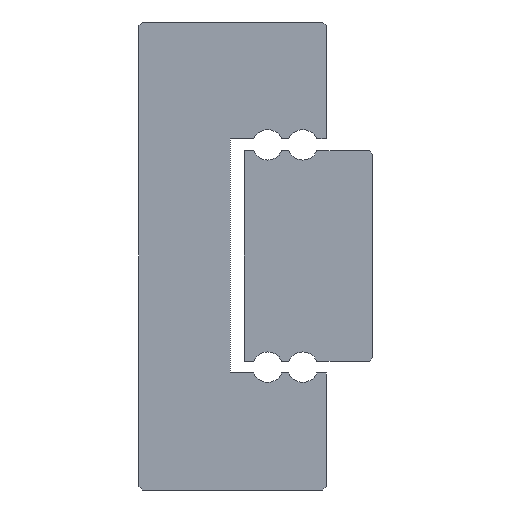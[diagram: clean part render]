
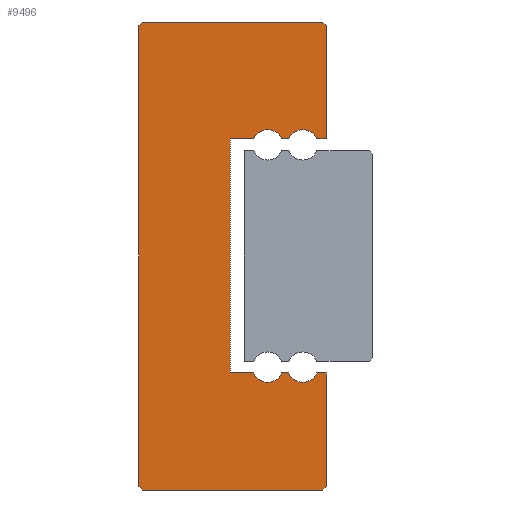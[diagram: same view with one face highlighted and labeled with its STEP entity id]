
A CAD part, left-side view. The second image highlights one B-rep face of the part: STEP entity #9496.
In plain terms, the highlighted planar face has unit normal (-1, 0, 0).
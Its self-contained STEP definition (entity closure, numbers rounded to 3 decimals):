
#79=LINE('',#14530,#895);
#217=LINE('',#15303,#1033);
#220=LINE('',#15309,#1036);
#223=LINE('',#15315,#1039);
#227=LINE('',#15327,#1043);
#231=LINE('',#15339,#1047);
#234=LINE('',#15345,#1050);
#237=LINE('',#15351,#1053);
#241=LINE('',#15363,#1057);
#245=LINE('',#15375,#1061);
#248=LINE('',#15381,#1064);
#251=LINE('',#15387,#1067);
#254=LINE('',#15393,#1070);
#257=LINE('',#15399,#1073);
#260=LINE('',#15425,#1076);
#263=LINE('',#15431,#1079);
#895=VECTOR('',#11343,1000.);
#1033=VECTOR('',#11979,1000.);
#1036=VECTOR('',#11984,1000.);
#1039=VECTOR('',#11989,1000.);
#1043=VECTOR('',#12001,1000.);
#1047=VECTOR('',#12013,1000.);
#1050=VECTOR('',#12018,1000.);
#1053=VECTOR('',#12023,1000.);
#1057=VECTOR('',#12035,1000.);
#1061=VECTOR('',#12047,1000.);
#1064=VECTOR('',#12052,1000.);
#1067=VECTOR('',#12057,1000.);
#1070=VECTOR('',#12062,1000.);
#1073=VECTOR('',#12067,1000.);
#1076=VECTOR('',#12092,1000.);
#1079=VECTOR('',#12097,1000.);
#1708=PLANE('',#10354);
#2494=ORIENTED_EDGE('',*,*,#4865,.F.);
#2495=ORIENTED_EDGE('',*,*,#5315,.F.);
#2496=ORIENTED_EDGE('',*,*,#5312,.F.);
#2497=ORIENTED_EDGE('',*,*,#5299,.F.);
#2498=ORIENTED_EDGE('',*,*,#5296,.F.);
#2499=ORIENTED_EDGE('',*,*,#5293,.F.);
#2500=ORIENTED_EDGE('',*,*,#5290,.F.);
#2501=ORIENTED_EDGE('',*,*,#5287,.F.);
#2502=ORIENTED_EDGE('',*,*,#5284,.T.);
#2503=ORIENTED_EDGE('',*,*,#5281,.F.);
#2504=ORIENTED_EDGE('',*,*,#5278,.T.);
#2505=ORIENTED_EDGE('',*,*,#5275,.F.);
#2506=ORIENTED_EDGE('',*,*,#5272,.F.);
#2507=ORIENTED_EDGE('',*,*,#5269,.F.);
#2508=ORIENTED_EDGE('',*,*,#5266,.T.);
#2509=ORIENTED_EDGE('',*,*,#5263,.F.);
#2510=ORIENTED_EDGE('',*,*,#5260,.T.);
#2511=ORIENTED_EDGE('',*,*,#5257,.F.);
#2512=ORIENTED_EDGE('',*,*,#5254,.F.);
#2513=ORIENTED_EDGE('',*,*,#5251,.F.);
#4865=EDGE_CURVE('',#6311,#6312,#79,.T.);
#5251=EDGE_CURVE('',#6312,#6697,#217,.T.);
#5254=EDGE_CURVE('',#6697,#6699,#220,.T.);
#5257=EDGE_CURVE('',#6699,#6701,#223,.T.);
#5260=EDGE_CURVE('',#6703,#6701,#7526,.T.);
#5263=EDGE_CURVE('',#6703,#6705,#227,.T.);
#5266=EDGE_CURVE('',#6707,#6705,#7528,.T.);
#5269=EDGE_CURVE('',#6707,#6709,#231,.T.);
#5272=EDGE_CURVE('',#6709,#6711,#234,.T.);
#5275=EDGE_CURVE('',#6711,#6713,#237,.T.);
#5278=EDGE_CURVE('',#6715,#6713,#7530,.T.);
#5281=EDGE_CURVE('',#6715,#6717,#241,.T.);
#5284=EDGE_CURVE('',#6719,#6717,#7532,.T.);
#5287=EDGE_CURVE('',#6719,#6721,#245,.T.);
#5290=EDGE_CURVE('',#6721,#6723,#248,.T.);
#5293=EDGE_CURVE('',#6723,#6725,#251,.T.);
#5296=EDGE_CURVE('',#6725,#6727,#254,.T.);
#5299=EDGE_CURVE('',#6727,#6729,#257,.T.);
#5312=EDGE_CURVE('',#6729,#6741,#260,.T.);
#5315=EDGE_CURVE('',#6741,#6311,#263,.T.);
#6311=VERTEX_POINT('',#14531);
#6312=VERTEX_POINT('',#14532);
#6697=VERTEX_POINT('',#15304);
#6699=VERTEX_POINT('',#15310);
#6701=VERTEX_POINT('',#15316);
#6703=VERTEX_POINT('',#15322);
#6705=VERTEX_POINT('',#15328);
#6707=VERTEX_POINT('',#15334);
#6709=VERTEX_POINT('',#15340);
#6711=VERTEX_POINT('',#15346);
#6713=VERTEX_POINT('',#15352);
#6715=VERTEX_POINT('',#15358);
#6717=VERTEX_POINT('',#15364);
#6719=VERTEX_POINT('',#15370);
#6721=VERTEX_POINT('',#15376);
#6723=VERTEX_POINT('',#15382);
#6725=VERTEX_POINT('',#15388);
#6727=VERTEX_POINT('',#15394);
#6729=VERTEX_POINT('',#15400);
#6741=VERTEX_POINT('',#15426);
#7526=CIRCLE('',#10320,0.65);
#7528=CIRCLE('',#10324,0.65);
#7530=CIRCLE('',#10330,0.65);
#7532=CIRCLE('',#10334,0.65);
#7994=EDGE_LOOP('',(#2494,#2495,#2496,#2497,#2498,#2499,#2500,#2501,#2502,
#2503,#2504,#2505,#2506,#2507,#2508,#2509,#2510,#2511,#2512,#2513));
#8611=FACE_BOUND('',#7994,.T.);
#9496=ADVANCED_FACE('',(#8611),#1708,.F.);
#10320=AXIS2_PLACEMENT_3D('',#15321,#11994,#11995);
#10324=AXIS2_PLACEMENT_3D('',#15333,#12006,#12007);
#10330=AXIS2_PLACEMENT_3D('',#15357,#12028,#12029);
#10334=AXIS2_PLACEMENT_3D('',#15369,#12040,#12041);
#10354=AXIS2_PLACEMENT_3D('',#15434,#12101,#12102);
#11343=DIRECTION('',(0.,-1.,0.));
#11979=DIRECTION('',(0.,-0.707,-0.707));
#11984=DIRECTION('',(0.,0.,-1.));
#11989=DIRECTION('',(0.,1.,0.));
#11994=DIRECTION('',(1.,0.,0.));
#11995=DIRECTION('',(0.,0.,-1.));
#12001=DIRECTION('',(0.,1.,0.));
#12006=DIRECTION('',(1.,0.,0.));
#12007=DIRECTION('',(0.,0.,-1.));
#12013=DIRECTION('',(0.,1.,0.));
#12018=DIRECTION('',(0.,0.,-1.));
#12023=DIRECTION('',(0.,-1.,0.));
#12028=DIRECTION('',(1.,0.,0.));
#12029=DIRECTION('',(0.,0.,-1.));
#12035=DIRECTION('',(0.,-1.,0.));
#12040=DIRECTION('',(1.,0.,0.));
#12041=DIRECTION('',(0.,0.,-1.));
#12047=DIRECTION('',(0.,-1.,0.));
#12052=DIRECTION('',(0.,0.,-1.));
#12057=DIRECTION('',(0.,0.707,-0.707));
#12062=DIRECTION('',(0.,1.,0.));
#12067=DIRECTION('',(0.,0.707,0.707));
#12092=DIRECTION('',(0.,0.,1.));
#12097=DIRECTION('',(0.,-0.707,0.707));
#12101=DIRECTION('',(1.,0.,0.));
#12102=DIRECTION('',(0.,0.,-1.));
#14530=CARTESIAN_POINT('',(-30.,7.85,10.));
#14531=CARTESIAN_POINT('',(-30.,7.85,10.));
#14532=CARTESIAN_POINT('',(-30.,0.15,10.));
#15303=CARTESIAN_POINT('',(-30.,0.15,10.));
#15304=CARTESIAN_POINT('',(-30.,0.,9.85));
#15309=CARTESIAN_POINT('',(-30.,0.,9.85));
#15310=CARTESIAN_POINT('',(-30.,0.,5.));
#15315=CARTESIAN_POINT('',(-30.,0.,5.));
#15316=CARTESIAN_POINT('',(-30.,0.4,5.));
#15321=CARTESIAN_POINT('',(-30.,1.,4.75));
#15322=CARTESIAN_POINT('',(-30.,1.6,5.));
#15327=CARTESIAN_POINT('',(-30.,1.6,5.));
#15328=CARTESIAN_POINT('',(-30.,1.9,5.));
#15333=CARTESIAN_POINT('',(-30.,2.5,4.75));
#15334=CARTESIAN_POINT('',(-30.,3.1,5.));
#15339=CARTESIAN_POINT('',(-30.,3.1,5.));
#15340=CARTESIAN_POINT('',(-30.,4.1,5.));
#15345=CARTESIAN_POINT('',(-30.,4.1,5.));
#15346=CARTESIAN_POINT('',(-30.,4.1,-5.));
#15351=CARTESIAN_POINT('',(-30.,4.1,-5.));
#15352=CARTESIAN_POINT('',(-30.,3.1,-5.));
#15357=CARTESIAN_POINT('',(-30.,2.5,-4.75));
#15358=CARTESIAN_POINT('',(-30.,1.9,-5.));
#15363=CARTESIAN_POINT('',(-30.,1.9,-5.));
#15364=CARTESIAN_POINT('',(-30.,1.6,-5.));
#15369=CARTESIAN_POINT('',(-30.,1.,-4.75));
#15370=CARTESIAN_POINT('',(-30.,0.4,-5.));
#15375=CARTESIAN_POINT('',(-30.,0.4,-5.));
#15376=CARTESIAN_POINT('',(-30.,0.,-5.));
#15381=CARTESIAN_POINT('',(-30.,0.,-5.));
#15382=CARTESIAN_POINT('',(-30.,0.,-9.85));
#15387=CARTESIAN_POINT('',(-30.,0.,-9.85));
#15388=CARTESIAN_POINT('',(-30.,0.15,-10.));
#15393=CARTESIAN_POINT('',(-30.,0.15,-10.));
#15394=CARTESIAN_POINT('',(-30.,7.85,-10.));
#15399=CARTESIAN_POINT('',(-30.,7.85,-10.));
#15400=CARTESIAN_POINT('',(-30.,8.,-9.85));
#15425=CARTESIAN_POINT('',(-30.,8.,-9.85));
#15426=CARTESIAN_POINT('',(-30.,8.,9.85));
#15431=CARTESIAN_POINT('',(-30.,8.,9.85));
#15434=CARTESIAN_POINT('',(-30.,1.,4.75));
